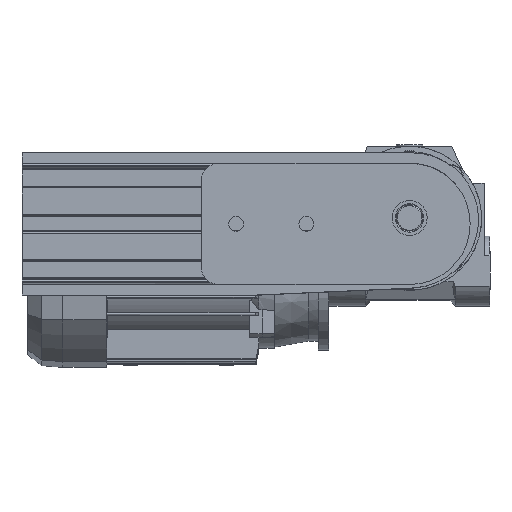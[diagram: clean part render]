
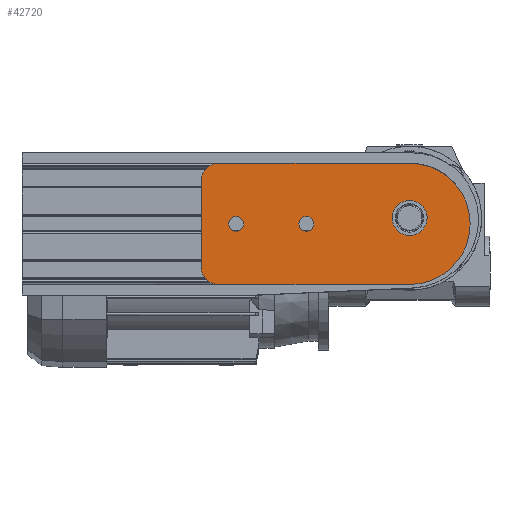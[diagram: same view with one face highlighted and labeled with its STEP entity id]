
A CAD part, top view. The second image highlights one B-rep face of the part: STEP entity #42720.
In plain terms, the highlighted planar face has unit normal (0, 0, 1).
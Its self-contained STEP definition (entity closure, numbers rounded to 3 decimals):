
#42206=CARTESIAN_POINT('',(39.389,-18.671,75.608));
#42207=VERTEX_POINT('',#42206);
#42208=CARTESIAN_POINT('',(39.389,-22.921,75.608));
#42209=DIRECTION('',(0.0,0.0,-1.0));
#42210=DIRECTION('',(0.0,-1.0,0.0));
#42211=AXIS2_PLACEMENT_3D('',#42208,#42209,#42210);
#42212=CIRCLE('',#42211,4.25);
#42213=EDGE_CURVE('',#42207,#42207,#42212,.T.);
#42255=CARTESIAN_POINT('',(-0.611,-18.671,75.608));
#42256=VERTEX_POINT('',#42255);
#42257=CARTESIAN_POINT('',(-0.611,-22.921,75.608));
#42258=DIRECTION('',(0.0,0.0,-1.0));
#42259=DIRECTION('',(0.0,-1.0,0.0));
#42260=AXIS2_PLACEMENT_3D('',#42257,#42258,#42259);
#42261=CIRCLE('',#42260,4.25);
#42262=EDGE_CURVE('',#42256,#42256,#42261,.T.);
#42303=CARTESIAN_POINT('',(-10.611,-57.421,75.608));
#42304=VERTEX_POINT('',#42303);
#42311=CARTESIAN_POINT('',(-20.611,-47.421,75.608));
#42312=VERTEX_POINT('',#42311);
#42313=CARTESIAN_POINT('',(-10.611,-47.421,75.608));
#42314=DIRECTION('',(0.,0.,-1.));
#42315=DIRECTION('',(-0.707,-0.707,0.));
#42316=AXIS2_PLACEMENT_3D('',#42313,#42314,#42315);
#42317=CIRCLE('',#42316,10.);
#42318=EDGE_CURVE('',#42304,#42312,#42317,.T.);
#42343=CARTESIAN_POINT('',(98.139,-57.421,75.608));
#42344=VERTEX_POINT('',#42343);
#42351=CARTESIAN_POINT('',(98.139,-57.421,75.608));
#42352=DIRECTION('',(-1.0,0.0,0.0));
#42353=VECTOR('',#42352,108.75);
#42354=LINE('',#42351,#42353);
#42355=EDGE_CURVE('',#42344,#42304,#42354,.T.);
#42546=CARTESIAN_POINT('',(-20.611,1.579,75.608));
#42547=VERTEX_POINT('',#42546);
#42554=CARTESIAN_POINT('',(-10.611,11.579,75.608));
#42555=VERTEX_POINT('',#42554);
#42556=CARTESIAN_POINT('',(-10.611,1.579,75.608));
#42557=DIRECTION('',(0.,0.,-1.));
#42558=DIRECTION('',(-0.707,0.707,0.));
#42559=AXIS2_PLACEMENT_3D('',#42556,#42557,#42558);
#42560=CIRCLE('',#42559,10.);
#42561=EDGE_CURVE('',#42547,#42555,#42560,.T.);
#42578=CARTESIAN_POINT('',(98.139,11.579,75.608));
#42579=VERTEX_POINT('',#42578);
#42580=CARTESIAN_POINT('',(-10.611,11.579,75.608));
#42581=DIRECTION('',(1.0,0.0,0.0));
#42582=VECTOR('',#42581,108.75);
#42583=LINE('',#42580,#42582);
#42584=EDGE_CURVE('',#42555,#42579,#42583,.T.);
#42625=CARTESIAN_POINT('',(98.139,-9.501,75.608));
#42626=VERTEX_POINT('',#42625);
#42627=CARTESIAN_POINT('',(98.139,-19.501,75.608));
#42628=DIRECTION('',(0.0,0.0,-1.0));
#42629=DIRECTION('',(0.0,-1.0,0.0));
#42630=AXIS2_PLACEMENT_3D('',#42627,#42628,#42629);
#42631=CIRCLE('',#42630,10.0);
#42632=EDGE_CURVE('',#42626,#42626,#42631,.T.);
#42643=CARTESIAN_POINT('',(-20.611,-47.421,75.608));
#42644=DIRECTION('',(0.0,1.0,0.0));
#42645=VECTOR('',#42644,49.0);
#42646=LINE('',#42643,#42645);
#42647=EDGE_CURVE('',#42312,#42547,#42646,.T.);
#42687=CARTESIAN_POINT('',(98.139,-22.921,75.608));
#42688=DIRECTION('',(0.0,0.0,-1.0));
#42689=DIRECTION('',(0.0,1.0,0.0));
#42690=AXIS2_PLACEMENT_3D('',#42687,#42688,#42689);
#42691=CIRCLE('',#42690,34.5);
#42692=EDGE_CURVE('',#42579,#42344,#42691,.T.);
#42698=CARTESIAN_POINT('',(49.574,-22.921,75.608));
#42699=DIRECTION('',(0.0,0.0,-1.0));
#42700=DIRECTION('',(0.0,-1.0,0.0));
#42701=AXIS2_PLACEMENT_3D('',#42698,#42699,#42700);
#42702=PLANE('',#42701);
#42703=ORIENTED_EDGE('',*,*,#42318,.F.);
#42704=ORIENTED_EDGE('',*,*,#42355,.F.);
#42705=ORIENTED_EDGE('',*,*,#42692,.F.);
#42706=ORIENTED_EDGE('',*,*,#42584,.F.);
#42707=ORIENTED_EDGE('',*,*,#42561,.F.);
#42708=ORIENTED_EDGE('',*,*,#42647,.F.);
#42709=EDGE_LOOP('',(#42703,#42704,#42705,#42706,#42707,#42708));
#42710=FACE_OUTER_BOUND('',#42709,.T.);
#42711=ORIENTED_EDGE('',*,*,#42213,.T.);
#42712=EDGE_LOOP('',(#42711));
#42713=FACE_BOUND('',#42712,.T.);
#42714=ORIENTED_EDGE('',*,*,#42262,.T.);
#42715=EDGE_LOOP('',(#42714));
#42716=FACE_BOUND('',#42715,.T.);
#42717=ORIENTED_EDGE('',*,*,#42632,.T.);
#42718=EDGE_LOOP('',(#42717));
#42719=FACE_BOUND('',#42718,.T.);
#42720=ADVANCED_FACE('',(#42710,#42713,#42716,#42719),#42702,.F.);
